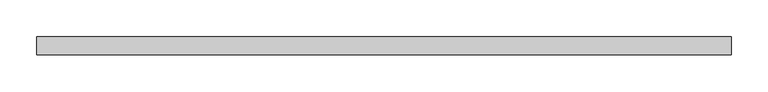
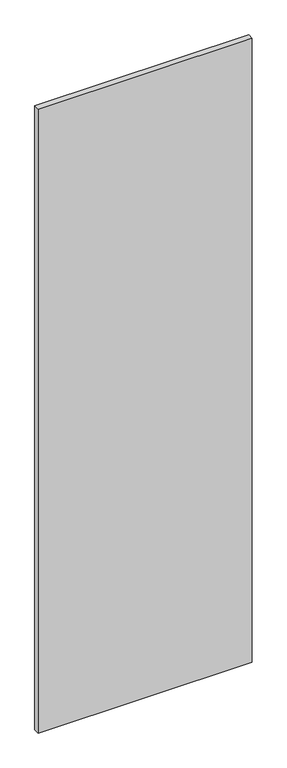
"""IFC4 building model written with IfcOpenShell, lengths in millimetres: plate geometry, Системная панель : ADSK_Cтеклопакет_25."""

from ifc_helpers import new_model, si_unit, origin, origin_with_axes, place, context, project, spatial, polyline, outline, extrude, source, transform, mapped, element, save


def plate_b143e3d3(model_context):
    return source(origin(), model_context, "Body", "SweptSolid", [
        extrude(outline(polyline([(475.0, -12.5), (-475.0, -12.5), (-475.0, 12.5), (475.0, 12.5), (475.0, -12.5)])), origin_with_axes(), (0.0, 0.0, 1.0), 2925.0),
    ])


if __name__ == "__main__":
    model = new_model("IFC4")
    model_context = context("Model", 3, world=origin())
    ifc_project = project(units=[si_unit("LENGTHUNIT", "METRE", prefix="MILLI")], contexts=[model_context])
    site = spatial("IfcSite", under=ifc_project)
    building = spatial("IfcBuilding", under=site)
    placement = place(None, origin())
    plate_shape = plate_b143e3d3(model_context)
    element("IfcPlate", 1, ObjectType="Системная панель : ADSK_Cтеклопакет_25", at=placement, inside=building, context=model_context, shape_type="MappedRepresentation", body=[
        mapped(plate_shape, transform((0.0, 0.0, 0.0), x_axis=(1.0, 0.0, 0.0), y_axis=(0.0, 1.0, 0.0), z_axis=(0.0, 0.0, 1.0))),
    ])
    save(model, "model.ifc")
